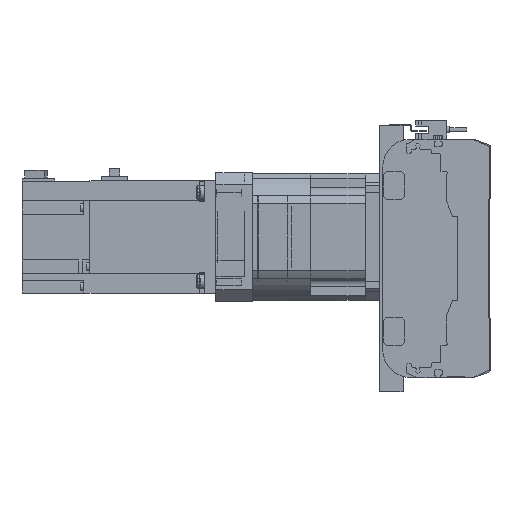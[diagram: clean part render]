
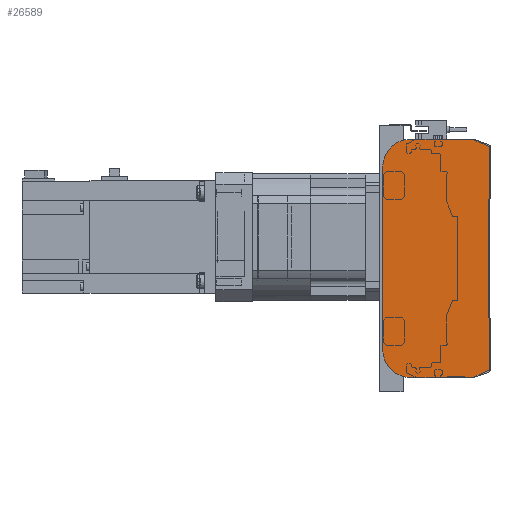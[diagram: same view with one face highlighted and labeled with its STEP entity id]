
A CAD part, left-side view. The second image highlights one B-rep face of the part: STEP entity #26589.
In plain terms, the highlighted planar face has unit normal (-1, 0, 0).
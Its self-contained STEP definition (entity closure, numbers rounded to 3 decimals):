
#2089=CIRCLE('',#29085,2.);
#2090=CIRCLE('',#29088,2.);
#2091=CIRCLE('',#29091,20.);
#2092=CIRCLE('',#29094,20.);
#7622=ORIENTED_EDGE('',*,*,#12791,.F.);
#7623=ORIENTED_EDGE('',*,*,#12869,.F.);
#7624=ORIENTED_EDGE('',*,*,#12867,.F.);
#7625=ORIENTED_EDGE('',*,*,#12865,.F.);
#7626=ORIENTED_EDGE('',*,*,#12548,.F.);
#7627=ORIENTED_EDGE('',*,*,#12864,.F.);
#7628=ORIENTED_EDGE('',*,*,#12862,.F.);
#7629=ORIENTED_EDGE('',*,*,#12860,.F.);
#7630=ORIENTED_EDGE('',*,*,#12858,.F.);
#7631=ORIENTED_EDGE('',*,*,#12856,.F.);
#12548=EDGE_CURVE('',#15474,#15475,#17716,.T.);
#12791=EDGE_CURVE('',#15546,#15547,#17830,.T.);
#12856=EDGE_CURVE('',#15547,#15588,#17875,.T.);
#12858=EDGE_CURVE('',#15588,#15589,#2089,.T.);
#12860=EDGE_CURVE('',#15589,#15590,#17878,.T.);
#12862=EDGE_CURVE('',#15590,#15591,#2090,.T.);
#12864=EDGE_CURVE('',#15591,#15474,#17881,.T.);
#12865=EDGE_CURVE('',#15475,#15592,#2091,.T.);
#12867=EDGE_CURVE('',#15592,#15593,#17883,.T.);
#12869=EDGE_CURVE('',#15593,#15546,#2092,.T.);
#15474=VERTEX_POINT('',#45026);
#15475=VERTEX_POINT('',#45028);
#15546=VERTEX_POINT('',#45394);
#15547=VERTEX_POINT('',#45396);
#15588=VERTEX_POINT('',#45526);
#15589=VERTEX_POINT('',#45530);
#15590=VERTEX_POINT('',#45534);
#15591=VERTEX_POINT('',#45538);
#15592=VERTEX_POINT('',#45544);
#15593=VERTEX_POINT('',#45548);
#17716=LINE('',#45027,#19889);
#17830=LINE('',#45395,#20003);
#17875=LINE('',#45525,#20048);
#17878=LINE('',#45533,#20051);
#17881=LINE('',#45541,#20054);
#17883=LINE('',#45547,#20056);
#19889=VECTOR('',#35199,1000.);
#20003=VECTOR('',#35677,1000.);
#20048=VECTOR('',#35810,1000.);
#20051=VECTOR('',#35819,1000.);
#20054=VECTOR('',#35828,1000.);
#20056=VECTOR('',#35836,1000.);
#21792=EDGE_LOOP('',(#7622,#7623,#7624,#7625,#7626,#7627,#7628,#7629,#7630,
#7631));
#23985=FACE_BOUND('',#21792,.T.);
#25286=PLANE('',#29096);
#26589=ADVANCED_FACE('',(#23985),#25286,.F.);
#29085=AXIS2_PLACEMENT_3D('',#45529,#35814,#35815);
#29088=AXIS2_PLACEMENT_3D('',#45537,#35823,#35824);
#29091=AXIS2_PLACEMENT_3D('',#45543,#35831,#35832);
#29094=AXIS2_PLACEMENT_3D('',#45551,#35840,#35841);
#29096=AXIS2_PLACEMENT_3D('',#45553,#35844,#35845);
#35199=DIRECTION('',(0.,1.,0.));
#35677=DIRECTION('',(0.,-1.,0.));
#35810=DIRECTION('',(0.,-0.913,-0.408));
#35814=DIRECTION('',(1.,0.,0.));
#35815=DIRECTION('',(0.,0.,-1.));
#35819=DIRECTION('',(0.,0.,-1.));
#35823=DIRECTION('',(1.,0.,0.));
#35824=DIRECTION('',(0.,0.,-1.));
#35828=DIRECTION('',(0.,0.913,-0.408));
#35831=DIRECTION('',(1.,0.,0.));
#35832=DIRECTION('',(0.,0.,-1.));
#35836=DIRECTION('',(0.,0.,1.));
#35840=DIRECTION('',(1.,0.,0.));
#35841=DIRECTION('',(0.,0.,-1.));
#35844=DIRECTION('',(1.,0.,0.));
#35845=DIRECTION('',(0.,0.,-1.));
#45026=CARTESIAN_POINT('',(0.,12.33,-85.));
#45027=CARTESIAN_POINT('',(0.,12.33,-85.));
#45028=CARTESIAN_POINT('',(0.,56.5,-85.));
#45394=CARTESIAN_POINT('',(0.,56.5,85.));
#45395=CARTESIAN_POINT('',(0.,56.5,85.));
#45396=CARTESIAN_POINT('',(0.,12.33,85.));
#45525=CARTESIAN_POINT('',(0.,12.33,85.));
#45526=CARTESIAN_POINT('',(0.,1.684,80.239));
#45529=CARTESIAN_POINT('',(0.,2.5,78.413));
#45530=CARTESIAN_POINT('',(0.,0.5,78.413));
#45533=CARTESIAN_POINT('',(0.,0.5,78.413));
#45534=CARTESIAN_POINT('',(0.,0.5,-78.413));
#45537=CARTESIAN_POINT('',(0.,2.5,-78.413));
#45538=CARTESIAN_POINT('',(0.,1.684,-80.239));
#45541=CARTESIAN_POINT('',(0.,1.684,-80.239));
#45543=CARTESIAN_POINT('',(0.,56.5,-65.));
#45544=CARTESIAN_POINT('',(0.,76.5,-65.));
#45547=CARTESIAN_POINT('',(0.,76.5,-65.));
#45548=CARTESIAN_POINT('',(0.,76.5,65.));
#45551=CARTESIAN_POINT('',(0.,56.5,65.));
#45553=CARTESIAN_POINT('',(0.,2.5,78.413));
